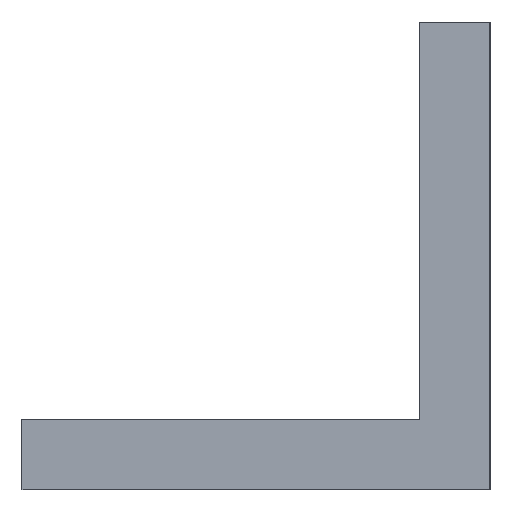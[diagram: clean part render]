
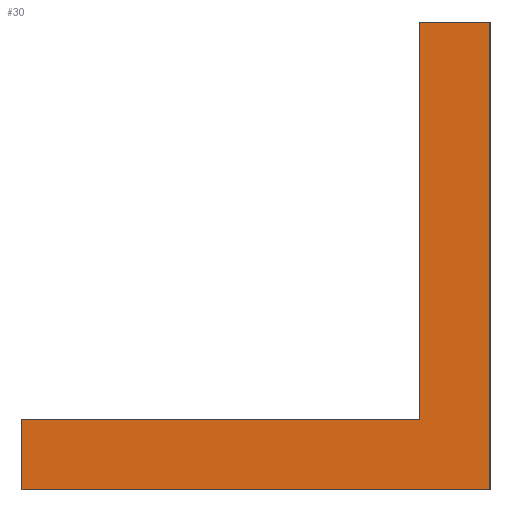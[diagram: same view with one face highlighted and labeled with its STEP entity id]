
A CAD part, left-side view. The second image highlights one B-rep face of the part: STEP entity #30.
In plain terms, the highlighted planar face has unit normal (-1, 0, 0).
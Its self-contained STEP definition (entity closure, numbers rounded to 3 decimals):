
#30=ADVANCED_FACE('',(#38),#264,.T.);
#38=FACE_OUTER_BOUND('',#46,.T.);
#46=EDGE_LOOP('',(#72,#73,#74,#75,#76,#77));
#72=ORIENTED_EDGE('',*,*,#190,.F.);
#73=ORIENTED_EDGE('',*,*,#187,.F.);
#74=ORIENTED_EDGE('',*,*,#184,.F.);
#75=ORIENTED_EDGE('',*,*,#181,.F.);
#76=ORIENTED_EDGE('',*,*,#178,.F.);
#77=ORIENTED_EDGE('',*,*,#174,.F.);
#84=PCURVE('',#258,#120);
#88=PCURVE('',#259,#124);
#92=PCURVE('',#260,#128);
#96=PCURVE('',#261,#132);
#100=PCURVE('',#262,#136);
#104=PCURVE('',#263,#140);
#108=PCURVE('',#264,#144);
#109=PCURVE('',#264,#145);
#110=PCURVE('',#264,#146);
#111=PCURVE('',#264,#147);
#112=PCURVE('',#264,#148);
#113=PCURVE('',#264,#149);
#120=DEFINITIONAL_REPRESENTATION('',(#193),#437);
#124=DEFINITIONAL_REPRESENTATION('',(#201),#437);
#128=DEFINITIONAL_REPRESENTATION('',(#208),#437);
#132=DEFINITIONAL_REPRESENTATION('',(#215),#437);
#136=DEFINITIONAL_REPRESENTATION('',(#222),#437);
#140=DEFINITIONAL_REPRESENTATION('',(#229),#437);
#144=DEFINITIONAL_REPRESENTATION('',(#234),#437);
#145=DEFINITIONAL_REPRESENTATION('',(#235),#437);
#146=DEFINITIONAL_REPRESENTATION('',(#236),#437);
#147=DEFINITIONAL_REPRESENTATION('',(#237),#437);
#148=DEFINITIONAL_REPRESENTATION('',(#238),#437);
#149=DEFINITIONAL_REPRESENTATION('',(#239),#437);
#156=SURFACE_CURVE('',#192,(#84,#113),.PCURVE_S1.);
#160=SURFACE_CURVE('',#200,(#88,#112),.PCURVE_S1.);
#163=SURFACE_CURVE('',#207,(#92,#111),.PCURVE_S1.);
#166=SURFACE_CURVE('',#214,(#96,#110),.PCURVE_S1.);
#169=SURFACE_CURVE('',#221,(#100,#109),.PCURVE_S1.);
#172=SURFACE_CURVE('',#228,(#104,#108),.PCURVE_S1.);
#174=EDGE_CURVE('',#246,#247,#156,.T.);
#178=EDGE_CURVE('',#247,#250,#160,.T.);
#181=EDGE_CURVE('',#250,#252,#163,.T.);
#184=EDGE_CURVE('',#252,#254,#166,.T.);
#187=EDGE_CURVE('',#254,#256,#169,.T.);
#190=EDGE_CURVE('',#256,#246,#172,.T.);
#192=B_SPLINE_CURVE_WITH_KNOTS('',1,(#328,#329),.UNSPECIFIED.,.F.,.F.,(2,
2),(-80.,-60.),.UNSPECIFIED.);
#193=B_SPLINE_CURVE_WITH_KNOTS('',1,(#330,#331),.UNSPECIFIED.,.F.,.F.,(2,
2),(-80.,-60.),.UNSPECIFIED.);
#200=B_SPLINE_CURVE_WITH_KNOTS('',1,(#344,#345),.UNSPECIFIED.,.F.,.F.,(2,
2),(-60.,-40.),.UNSPECIFIED.);
#201=B_SPLINE_CURVE_WITH_KNOTS('',1,(#346,#347),.UNSPECIFIED.,.F.,.F.,(2,
2),(-60.,-40.),.UNSPECIFIED.);
#207=B_SPLINE_CURVE_WITH_KNOTS('',1,(#358,#359),.UNSPECIFIED.,.F.,.F.,(2,
2),(-40.,-37.),.UNSPECIFIED.);
#208=B_SPLINE_CURVE_WITH_KNOTS('',1,(#360,#361),.UNSPECIFIED.,.F.,.F.,(2,
2),(-40.,-37.),.UNSPECIFIED.);
#214=B_SPLINE_CURVE_WITH_KNOTS('',1,(#372,#373),.UNSPECIFIED.,.F.,.F.,(2,
2),(-37.,-20.),.UNSPECIFIED.);
#215=B_SPLINE_CURVE_WITH_KNOTS('',1,(#374,#375),.UNSPECIFIED.,.F.,.F.,(2,
2),(-37.,-20.),.UNSPECIFIED.);
#221=B_SPLINE_CURVE_WITH_KNOTS('',1,(#386,#387),.UNSPECIFIED.,.F.,.F.,(2,
2),(-20.,-3.),.UNSPECIFIED.);
#222=B_SPLINE_CURVE_WITH_KNOTS('',1,(#388,#389),.UNSPECIFIED.,.F.,.F.,(2,
2),(-20.,-3.),.UNSPECIFIED.);
#228=B_SPLINE_CURVE_WITH_KNOTS('',1,(#400,#401),.UNSPECIFIED.,.F.,.F.,(2,
2),(-3.,0.),.UNSPECIFIED.);
#229=B_SPLINE_CURVE_WITH_KNOTS('',1,(#402,#403),.UNSPECIFIED.,.F.,.F.,(2,
2),(-3.,0.),.UNSPECIFIED.);
#234=B_SPLINE_CURVE_WITH_KNOTS('',1,(#412,#413),.UNSPECIFIED.,.F.,.F.,(2,
2),(-3.,0.),.UNSPECIFIED.);
#235=B_SPLINE_CURVE_WITH_KNOTS('',1,(#414,#415),.UNSPECIFIED.,.F.,.F.,(2,
2),(-20.,-3.),.UNSPECIFIED.);
#236=B_SPLINE_CURVE_WITH_KNOTS('',1,(#416,#417),.UNSPECIFIED.,.F.,.F.,(2,
2),(-37.,-20.),.UNSPECIFIED.);
#237=B_SPLINE_CURVE_WITH_KNOTS('',1,(#418,#419),.UNSPECIFIED.,.F.,.F.,(2,
2),(-40.,-37.),.UNSPECIFIED.);
#238=B_SPLINE_CURVE_WITH_KNOTS('',1,(#420,#421),.UNSPECIFIED.,.F.,.F.,(2,
2),(-60.,-40.),.UNSPECIFIED.);
#239=B_SPLINE_CURVE_WITH_KNOTS('',1,(#422,#423),.UNSPECIFIED.,.F.,.F.,(2,
2),(-80.,-60.),.UNSPECIFIED.);
#246=VERTEX_POINT('',#316);
#247=VERTEX_POINT('',#317);
#250=VERTEX_POINT('',#320);
#252=VERTEX_POINT('',#322);
#254=VERTEX_POINT('',#324);
#256=VERTEX_POINT('',#326);
#258=PLANE('',#286);
#259=PLANE('',#287);
#260=PLANE('',#288);
#261=PLANE('',#289);
#262=PLANE('',#290);
#263=PLANE('',#291);
#264=PLANE('',#292);
#286=AXIS2_PLACEMENT_3D('',#308,#297,$);
#287=AXIS2_PLACEMENT_3D('',#309,#298,$);
#288=AXIS2_PLACEMENT_3D('',#310,#299,$);
#289=AXIS2_PLACEMENT_3D('',#311,#300,$);
#290=AXIS2_PLACEMENT_3D('',#312,#301,$);
#291=AXIS2_PLACEMENT_3D('',#313,#302,$);
#292=AXIS2_PLACEMENT_3D('',#314,#303,$);
#297=DIRECTION('',(0.,-1.,0.));
#298=DIRECTION('',(0.,0.,-1.));
#299=DIRECTION('',(0.,1.,0.));
#300=DIRECTION('',(0.,0.,1.));
#301=DIRECTION('',(0.,1.,0.));
#302=DIRECTION('',(0.,0.,1.));
#303=DIRECTION('',(-1.,0.,0.));
#308=CARTESIAN_POINT('',(-734.,79.,4.));
#309=CARTESIAN_POINT('',(-734.,79.,-16.));
#310=CARTESIAN_POINT('',(-734.,99.,-16.));
#311=CARTESIAN_POINT('',(-734.,99.,-13.));
#312=CARTESIAN_POINT('',(-734.,82.,-13.));
#313=CARTESIAN_POINT('',(-734.,82.,4.));
#314=CARTESIAN_POINT('',(-734.,99.,4.));
#316=CARTESIAN_POINT('',(-734.,79.,4.));
#317=CARTESIAN_POINT('',(-734.,79.,-16.));
#320=CARTESIAN_POINT('',(-734.,99.,-16.));
#322=CARTESIAN_POINT('',(-734.,99.,-13.));
#324=CARTESIAN_POINT('',(-734.,82.,-13.));
#326=CARTESIAN_POINT('',(-734.,82.,4.));
#328=CARTESIAN_POINT('',(-734.,79.,4.));
#329=CARTESIAN_POINT('',(-734.,79.,-16.));
#330=CARTESIAN_POINT('',(-80.,0.));
#331=CARTESIAN_POINT('',(-60.,0.));
#344=CARTESIAN_POINT('',(-734.,79.,-16.));
#345=CARTESIAN_POINT('',(-734.,99.,-16.));
#346=CARTESIAN_POINT('',(-60.,0.));
#347=CARTESIAN_POINT('',(-40.,0.));
#358=CARTESIAN_POINT('',(-734.,99.,-16.));
#359=CARTESIAN_POINT('',(-734.,99.,-13.));
#360=CARTESIAN_POINT('',(-40.,0.));
#361=CARTESIAN_POINT('',(-37.,0.));
#372=CARTESIAN_POINT('',(-734.,99.,-13.));
#373=CARTESIAN_POINT('',(-734.,82.,-13.));
#374=CARTESIAN_POINT('',(-37.,0.));
#375=CARTESIAN_POINT('',(-20.,0.));
#386=CARTESIAN_POINT('',(-734.,82.,-13.));
#387=CARTESIAN_POINT('',(-734.,82.,4.));
#388=CARTESIAN_POINT('',(-20.,0.));
#389=CARTESIAN_POINT('',(-3.,0.));
#400=CARTESIAN_POINT('',(-734.,82.,4.));
#401=CARTESIAN_POINT('',(-734.,79.,4.));
#402=CARTESIAN_POINT('',(-3.,0.));
#403=CARTESIAN_POINT('',(0.,0.));
#412=CARTESIAN_POINT('',(0.,-3.));
#413=CARTESIAN_POINT('',(0.,0.));
#414=CARTESIAN_POINT('',(17.,-3.));
#415=CARTESIAN_POINT('',(0.,-3.));
#416=CARTESIAN_POINT('',(17.,-20.));
#417=CARTESIAN_POINT('',(17.,-3.));
#418=CARTESIAN_POINT('',(20.,-20.));
#419=CARTESIAN_POINT('',(17.,-20.));
#420=CARTESIAN_POINT('',(20.,0.));
#421=CARTESIAN_POINT('',(20.,-20.));
#422=CARTESIAN_POINT('',(0.,0.));
#423=CARTESIAN_POINT('',(20.,0.));
#437=(
GEOMETRIC_REPRESENTATION_CONTEXT(2)
PARAMETRIC_REPRESENTATION_CONTEXT()
REPRESENTATION_CONTEXT('pspace','')
);
